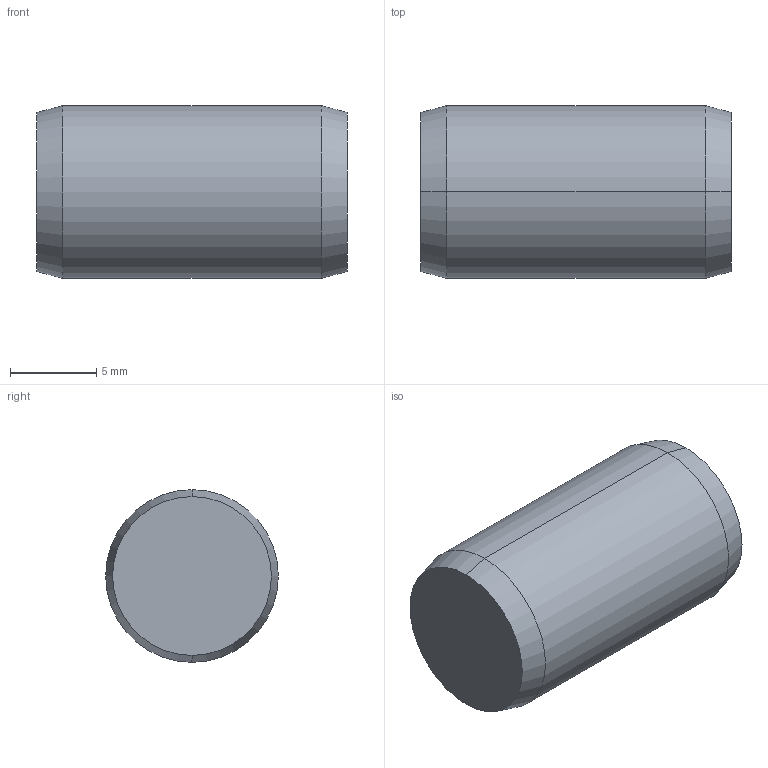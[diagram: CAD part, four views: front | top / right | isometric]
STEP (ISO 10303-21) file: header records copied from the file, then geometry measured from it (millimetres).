
FILE_DESCRIPTION (( 'STEP AP203' ), '1' );
FILE_NAME ('P1206.100-018.step', '2017-06-14T08:30:39', ( 'User' ), ( '' ), 'SwSTEP 2.0', 'SolidWorks 2009', '' );
FILE_SCHEMA (( 'CONFIG_CONTROL_DESIGN' ));
Length unit declared in the file: millimetre
Products named in the file (1): P1206.100-018
Bounding box: 18 x 10 x 10 mm (x, y, z)
Volume: 1395.3 mm3; surface area: 697.7 mm2
Topology: 1 solids, 1 shells, 8 faces, 14 edges, 8 vertices
Faces by surface type: cone 4, cylinder 2, plane 2
Entity records: 271 total; most frequent: DIRECTION 40, CARTESIAN_POINT 31, ORIENTED_EDGE 28, AXIS2_PLACEMENT_3D 17, EDGE_CURVE 14, ADVANCED_FACE 8, EDGE_LOOP 8, VERTEX_POINT 8
